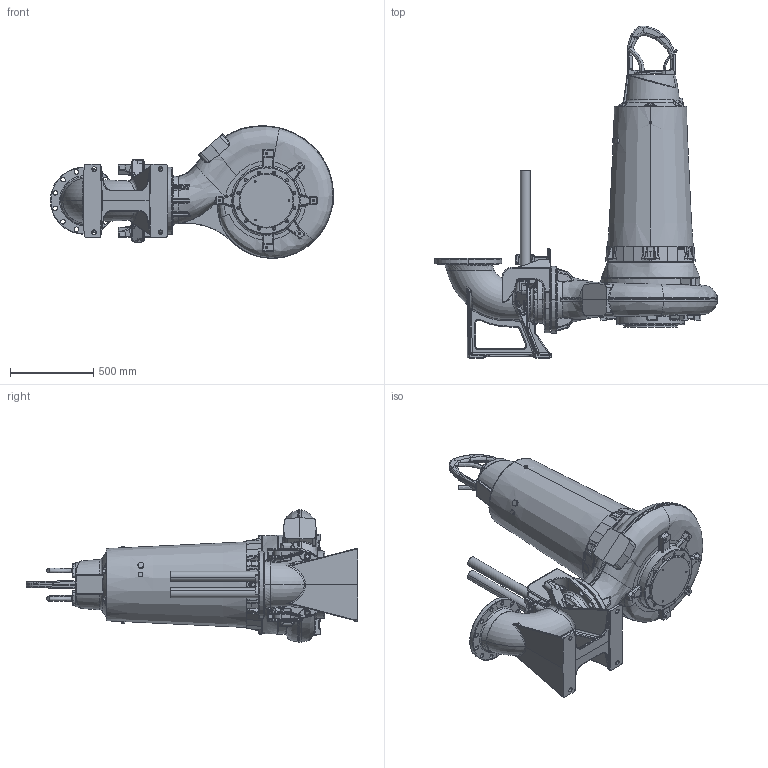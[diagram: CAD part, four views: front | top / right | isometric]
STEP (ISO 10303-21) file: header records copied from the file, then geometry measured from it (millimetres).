
FILE_DESCRIPTION (( 'STEP AP214' ), '1' );
FILE_NAME ('PE5_XFP250M-CH2_WET 2guide_A_NG2.STEP', '2017-03-08T11:36:53', ( '' ), ( '' ), 'SwSTEP 2.0', 'SolidWorks 2017', '' );
FILE_SCHEMA (( 'AUTOMOTIVE_DESIGN' ));
Length unit declared in the file: millimetre
Products named in the file (1): PE5_XFP250M-CH2_WET 2guide_A_NG2
Bounding box: 1704.5 x 1998.94 x 799 mm (x, y, z)
Volume: 388667545 mm3; surface area: 6644009.6 mm2
Topology: 4 solids, 6 shells, 3677 faces, 8983 edges, 5222 vertices
Faces by surface type: bspline 1296, cylinder 1026, plane 674, torus 300, cone 250, sphere 131
Entity records: 315033 total; most frequent: CARTESIAN_POINT 199540, ORIENTED_EDGE 17564, DIRECTION 13278, EDGE_CURVE 8782, AXIS2_PLACEMENT_3D 5364, VERTEX_POINT 5218, EDGE_LOOP 3876, UNCERTAINTY_MEASURE_WITH_UNIT 3683
